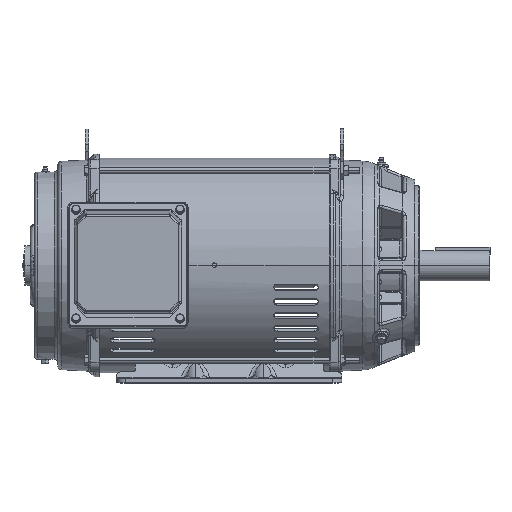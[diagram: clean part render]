
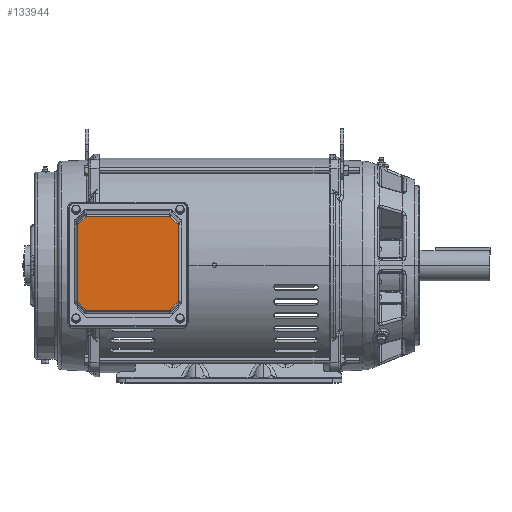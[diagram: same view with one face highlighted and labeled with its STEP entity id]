
A CAD part, top view. The second image highlights one B-rep face of the part: STEP entity #133944.
In plain terms, the highlighted planar face has unit normal (0, 0, 1).
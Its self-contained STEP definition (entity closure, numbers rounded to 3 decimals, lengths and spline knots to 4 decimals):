
#3976 = DIRECTION ( 'NONE',  ( 0., -1., 0. ) ) ;
#5949 = VERTEX_POINT ( 'NONE', #89771 ) ;
#6461 = DIRECTION ( 'NONE',  ( -0.705, 0.709, 0. ) ) ;
#7735 = LINE ( 'NONE', #116536, #79695 ) ;
#8313 = VECTOR ( 'NONE', #57192, 39.3701 ) ;
#15077 = LINE ( 'NONE', #177871, #155162 ) ;
#19964 = LINE ( 'NONE', #103568, #92967 ) ;
#23019 = EDGE_CURVE ( 'NONE', #151713, #71851, #7735, .T. ) ;
#25910 = ORIENTED_EDGE ( 'NONE', *, *, #27800, .T. ) ;
#27800 = EDGE_CURVE ( 'NONE', #80911, #173628, #48996, .T. ) ;
#29899 = CARTESIAN_POINT ( 'NONE',  ( -7.5622, -2.4165, 9.2264 ) ) ;
#31573 = EDGE_CURVE ( 'NONE', #173628, #151713, #19964, .T. ) ;
#33148 = VECTOR ( 'NONE', #67874, 39.3701 ) ;
#39202 = VERTEX_POINT ( 'NONE', #52296 ) ;
#44279 = LINE ( 'NONE', #61262, #153858 ) ;
#44500 = CARTESIAN_POINT ( 'NONE',  ( -8.0315, -1.9964, 9.2264 ) ) ;
#48275 = ORIENTED_EDGE ( 'NONE', *, *, #81987, .T. ) ;
#48996 = LINE ( 'NONE', #173985, #33148 ) ;
#52296 = CARTESIAN_POINT ( 'NONE',  ( -7.597, -2.3814, 9.2264 ) ) ;
#52941 = CARTESIAN_POINT ( 'NONE',  ( -7.597, 2.5832, 9.2264 ) ) ;
#56715 = ORIENTED_EDGE ( 'NONE', *, *, #57839, .T. ) ;
#57192 = DIRECTION ( 'NONE',  ( -0.705, -0.709, 0. ) ) ;
#57333 = DIRECTION ( 'NONE',  ( 1., 0., 0. ) ) ;
#57839 = EDGE_CURVE ( 'NONE', #67361, #5949, #127188, .T. ) ;
#61262 = CARTESIAN_POINT ( 'NONE',  ( -2.6937, -1.9212, 9.2264 ) ) ;
#64398 = DIRECTION ( 'NONE',  ( -1., 0., 0. ) ) ;
#67186 = LINE ( 'NONE', #125535, #8313 ) ;
#67361 = VERTEX_POINT ( 'NONE', #76867 ) ;
#67874 = DIRECTION ( 'NONE',  ( 0., 1., 0. ) ) ;
#71851 = VERTEX_POINT ( 'NONE', #52941 ) ;
#76867 = CARTESIAN_POINT ( 'NONE',  ( -8.0315, 2.146, 9.2264 ) ) ;
#79695 = VECTOR ( 'NONE', #64398, 39.3701 ) ;
#80911 = VERTEX_POINT ( 'NONE', #142428 ) ;
#81987 = EDGE_CURVE ( 'NONE', #39202, #136831, #15077, .T. ) ;
#83879 = LINE ( 'NONE', #29899, #95498 ) ;
#89771 = CARTESIAN_POINT ( 'NONE',  ( -8.0315, -1.9442, 9.2264 ) ) ;
#92802 = DIRECTION ( 'NONE',  ( 0., 0., -1. ) ) ;
#92967 = VECTOR ( 'NONE', #6461, 39.3701 ) ;
#95498 = VECTOR ( 'NONE', #167439, 39.3701 ) ;
#100808 = ORIENTED_EDGE ( 'NONE', *, *, #23019, .T. ) ;
#103568 = CARTESIAN_POINT ( 'NONE',  ( -3.1747, 2.6071, 9.2264 ) ) ;
#104439 = ORIENTED_EDGE ( 'NONE', *, *, #174743, .T. ) ;
#111834 = CARTESIAN_POINT ( 'NONE',  ( -2.7165, 2.146, 9.2264 ) ) ;
#112305 = CARTESIAN_POINT ( 'NONE',  ( -3.151, -2.3814, 9.2264 ) ) ;
#116536 = CARTESIAN_POINT ( 'NONE',  ( -8.1299, 2.5832, 9.2264 ) ) ;
#118352 = ORIENTED_EDGE ( 'NONE', *, *, #31573, .T. ) ;
#124107 = VECTOR ( 'NONE', #3976, 39.3701 ) ;
#125535 = CARTESIAN_POINT ( 'NONE',  ( -8.0654, 2.1118, 9.2264 ) ) ;
#127188 = LINE ( 'NONE', #44500, #124107 ) ;
#133944 = ADVANCED_FACE ( 'NONE', ( #134154 ), #160252, .F. ) ;
#134154 = FACE_OUTER_BOUND ( 'NONE', #162476, .T. ) ;
#136831 = VERTEX_POINT ( 'NONE', #112305 ) ;
#141331 = ORIENTED_EDGE ( 'NONE', *, *, #141752, .T. ) ;
#141752 = EDGE_CURVE ( 'NONE', #136831, #80911, #44279, .T. ) ;
#142428 = CARTESIAN_POINT ( 'NONE',  ( -2.7165, -1.9442, 9.2264 ) ) ;
#148534 = DIRECTION ( 'NONE',  ( 0., -1., 0. ) ) ;
#149591 = ORIENTED_EDGE ( 'NONE', *, *, #154630, .T. ) ;
#151713 = VERTEX_POINT ( 'NONE', #162362 ) ;
#153228 = AXIS2_PLACEMENT_3D ( 'NONE', #177298, #92802, #148534 ) ;
#153858 = VECTOR ( 'NONE', #167427, 39.3701 ) ;
#154630 = EDGE_CURVE ( 'NONE', #5949, #39202, #83879, .T. ) ;
#155162 = VECTOR ( 'NONE', #57333, 39.3701 ) ;
#160252 = PLANE ( 'NONE',  #153228 ) ;
#162362 = CARTESIAN_POINT ( 'NONE',  ( -3.151, 2.5832, 9.2264 ) ) ;
#162476 = EDGE_LOOP ( 'NONE', ( #48275, #141331, #25910, #118352, #100808, #104439, #56715, #149591 ) ) ;
#167427 = DIRECTION ( 'NONE',  ( 0.705, 0.709, 0. ) ) ;
#167439 = DIRECTION ( 'NONE',  ( 0.705, -0.709, 0. ) ) ;
#173628 = VERTEX_POINT ( 'NONE', #111834 ) ;
#173985 = CARTESIAN_POINT ( 'NONE',  ( -2.7165, -2.4916, 9.2264 ) ) ;
#174743 = EDGE_CURVE ( 'NONE', #71851, #67361, #67186, .T. ) ;
#177298 = CARTESIAN_POINT ( 'NONE',  ( -8.1299, -2.4916, 9.2264 ) ) ;
#177871 = CARTESIAN_POINT ( 'NONE',  ( -8.1299, -2.3814, 9.2264 ) ) ;
